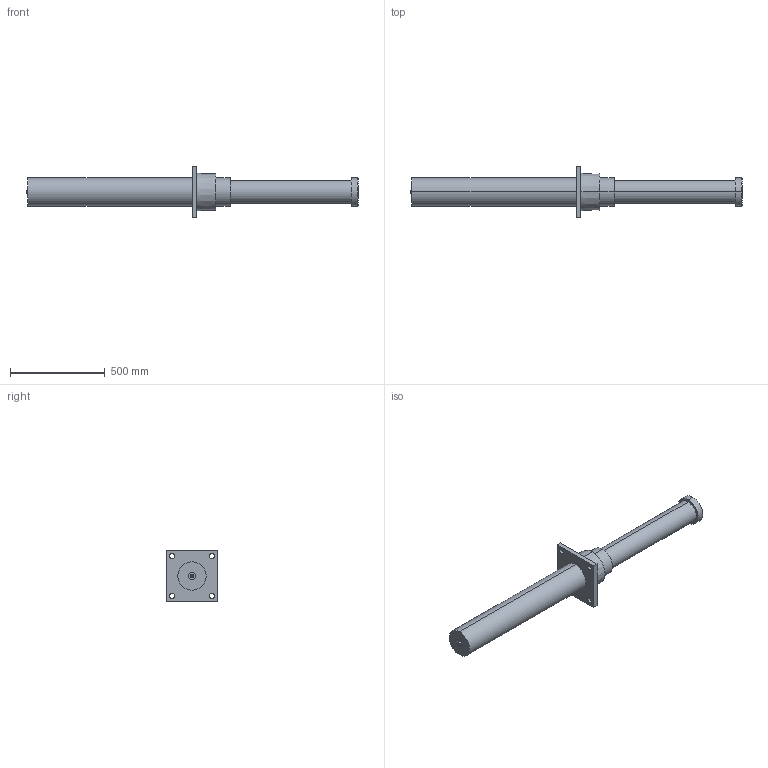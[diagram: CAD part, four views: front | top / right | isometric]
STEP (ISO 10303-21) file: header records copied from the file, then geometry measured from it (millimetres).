
FILE_DESCRIPTION (( 'STEP AP214' ), '1' );
FILE_NAME ('LDH150X600FF.STEP', '2019-01-21T05:03:28', ( 'user' ), ( 'Microsoft' ), 'SwSTEP 2.0', 'SolidWorks 2016', '' );
FILE_SCHEMA (( 'AUTOMOTIVE_DESIGN' ));
Length unit declared in the file: millimetre
Products named in the file (1): LDH150X600FF
Bounding box: 1752 x 270 x 270 mm (x, y, z)
Volume: 29193903 mm3; surface area: 952649.1 mm2
Topology: 1 solids, 5 shells, 63 faces, 136 edges, 90 vertices
Faces by surface type: cylinder 30, plane 29, cone 4
Entity records: 1790 total; most frequent: DIRECTION 338, CARTESIAN_POINT 290, ORIENTED_EDGE 272, AXIS2_PLACEMENT_3D 138, EDGE_CURVE 136, VERTEX_POINT 90, EDGE_LOOP 78, CIRCLE 74
